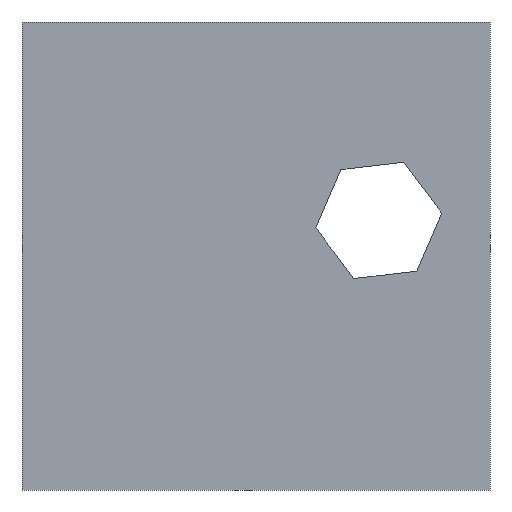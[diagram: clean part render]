
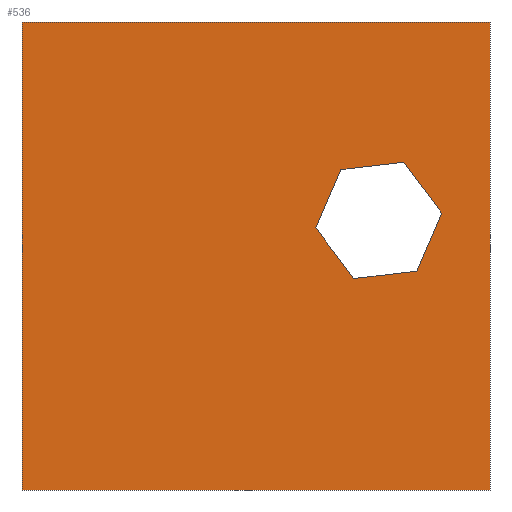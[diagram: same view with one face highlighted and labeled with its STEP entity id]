
A CAD part, front view. The second image highlights one B-rep face of the part: STEP entity #536.
In plain terms, the highlighted planar face has unit normal (0, -1, 0).
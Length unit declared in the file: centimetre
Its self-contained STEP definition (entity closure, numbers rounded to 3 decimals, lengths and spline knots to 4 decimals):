
#8 = CARTESIAN_POINT ( 'NONE',  ( 1000., 0., 1000. ) ) ;
#14 = DIRECTION ( 'NONE',  ( 1., 0., 0. ) ) ;
#15 = EDGE_CURVE ( 'NONE', #30, #588, #505, .T. ) ;
#19 = ORIENTED_EDGE ( 'NONE', *, *, #336, .F. ) ;
#21 = EDGE_CURVE ( 'NONE', #450, #588, #163, .T. ) ;
#30 = VERTEX_POINT ( 'NONE', #471 ) ;
#33 = ORIENTED_EDGE ( 'NONE', *, *, #574, .F. ) ;
#54 = VECTOR ( 'NONE', #263, 100. ) ;
#57 = CARTESIAN_POINT ( 'NONE',  ( 843.1665, 0., 467.5201 ) ) ;
#60 = LINE ( 'NONE', #209, #606 ) ;
#69 = VERTEX_POINT ( 'NONE', #268 ) ;
#75 = DIRECTION ( 'NONE',  ( -0.597, 0., 0.802 ) ) ;
#77 = EDGE_CURVE ( 'NONE', #540, #30, #260, .T. ) ;
#90 = VECTOR ( 'NONE', #526, 100. ) ;
#106 = CARTESIAN_POINT ( 'NONE',  ( 843.1665, 0., 467.5201 ) ) ;
#109 = FACE_OUTER_BOUND ( 'NONE', #410, .T. ) ;
#120 = CARTESIAN_POINT ( 'NONE',  ( 0., 0., 1000. ) ) ;
#138 = LINE ( 'NONE', #283, #235 ) ;
#140 = LINE ( 'NONE', #194, #597 ) ;
#163 = LINE ( 'NONE', #207, #54 ) ;
#174 = VECTOR ( 'NONE', #176, 100. ) ;
#176 = DIRECTION ( 'NONE',  ( -0.993, 0., -0.116 ) ) ;
#191 = VERTEX_POINT ( 'NONE', #533 ) ;
#194 = CARTESIAN_POINT ( 'NONE',  ( 627.8884, 0., 560.2994 ) ) ;
#200 = ORIENTED_EDGE ( 'NONE', *, *, #509, .F. ) ;
#204 = CARTESIAN_POINT ( 'NONE',  ( 1000., 0., 0. ) ) ;
#207 = CARTESIAN_POINT ( 'NONE',  ( 1000., 0., 1000. ) ) ;
#209 = CARTESIAN_POINT ( 'NONE',  ( 708.7444, 0., 451.7643 ) ) ;
#213 = DIRECTION ( 'NONE',  ( 0., 1., 0. ) ) ;
#217 = CARTESIAN_POINT ( 'NONE',  ( 681.4545, 0., 684.5902 ) ) ;
#220 = EDGE_CURVE ( 'NONE', #354, #191, #138, .T. ) ;
#229 = EDGE_CURVE ( 'NONE', #540, #450, #630, .T. ) ;
#235 = VECTOR ( 'NONE', #75, 100. ) ;
#239 = VERTEX_POINT ( 'NONE', #483 ) ;
#256 = LINE ( 'NONE', #57, #555 ) ;
#260 = LINE ( 'NONE', #120, #308 ) ;
#261 = ORIENTED_EDGE ( 'NONE', *, *, #220, .F. ) ;
#263 = DIRECTION ( 'NONE',  ( 0., 0., -1. ) ) ;
#265 = CARTESIAN_POINT ( 'NONE',  ( 0., 0., 1000. ) ) ;
#268 = CARTESIAN_POINT ( 'NONE',  ( 627.8884, 0., 560.2994 ) ) ;
#276 = ORIENTED_EDGE ( 'NONE', *, *, #21, .F. ) ;
#281 = EDGE_LOOP ( 'NONE', ( #261, #200, #631, #19, #33, #660 ) ) ;
#283 = CARTESIAN_POINT ( 'NONE',  ( 896.7326, 0., 591.811 ) ) ;
#304 = PLANE ( 'NONE',  #521 ) ;
#308 = VECTOR ( 'NONE', #515, 100. ) ;
#310 = LINE ( 'NONE', #457, #507 ) ;
#335 = CARTESIAN_POINT ( 'NONE',  ( 0., 0., 1000. ) ) ;
#336 = EDGE_CURVE ( 'NONE', #69, #239, #140, .T. ) ;
#352 = DIRECTION ( 'NONE',  ( 0., 0., 1. ) ) ;
#354 = VERTEX_POINT ( 'NONE', #436 ) ;
#361 = CARTESIAN_POINT ( 'NONE',  ( 0., 0., 1000. ) ) ;
#407 = ORIENTED_EDGE ( 'NONE', *, *, #77, .T. ) ;
#409 = DIRECTION ( 'NONE',  ( 0.993, 0., 0.116 ) ) ;
#410 = EDGE_LOOP ( 'NONE', ( #550, #276, #538, #407 ) ) ;
#429 = VECTOR ( 'NONE', #14, 100. ) ;
#436 = CARTESIAN_POINT ( 'NONE',  ( 896.7326, 0., 591.811 ) ) ;
#450 = VERTEX_POINT ( 'NONE', #8 ) ;
#456 = VERTEX_POINT ( 'NONE', #106 ) ;
#457 = CARTESIAN_POINT ( 'NONE',  ( 681.4545, 0., 684.5902 ) ) ;
#471 = CARTESIAN_POINT ( 'NONE',  ( 0., 0., 0. ) ) ;
#483 = CARTESIAN_POINT ( 'NONE',  ( 708.7444, 0., 451.7643 ) ) ;
#496 = LINE ( 'NONE', #594, #174 ) ;
#505 = LINE ( 'NONE', #614, #429 ) ;
#507 = VECTOR ( 'NONE', #570, 100. ) ;
#509 = EDGE_CURVE ( 'NONE', #456, #354, #256, .T. ) ;
#513 = FACE_BOUND ( 'NONE', #281, .T. ) ;
#515 = DIRECTION ( 'NONE',  ( 0., 0., -1. ) ) ;
#521 = AXIS2_PLACEMENT_3D ( 'NONE', #265, #213, #352 ) ;
#526 = DIRECTION ( 'NONE',  ( 1., 0., 0. ) ) ;
#533 = CARTESIAN_POINT ( 'NONE',  ( 815.8766, 0., 700.3461 ) ) ;
#536 = ADVANCED_FACE ( 'NONE', ( #513, #109 ), #304, .F. ) ;
#538 = ORIENTED_EDGE ( 'NONE', *, *, #229, .F. ) ;
#540 = VERTEX_POINT ( 'NONE', #361 ) ;
#547 = EDGE_CURVE ( 'NONE', #239, #456, #60, .T. ) ;
#550 = ORIENTED_EDGE ( 'NONE', *, *, #15, .T. ) ;
#555 = VECTOR ( 'NONE', #608, 100. ) ;
#570 = DIRECTION ( 'NONE',  ( -0.396, 0., -0.918 ) ) ;
#574 = EDGE_CURVE ( 'NONE', #576, #69, #310, .T. ) ;
#576 = VERTEX_POINT ( 'NONE', #217 ) ;
#588 = VERTEX_POINT ( 'NONE', #204 ) ;
#591 = DIRECTION ( 'NONE',  ( 0.597, 0., -0.802 ) ) ;
#594 = CARTESIAN_POINT ( 'NONE',  ( 815.8766, 0., 700.3461 ) ) ;
#597 = VECTOR ( 'NONE', #591, 100. ) ;
#604 = EDGE_CURVE ( 'NONE', #191, #576, #496, .T. ) ;
#606 = VECTOR ( 'NONE', #409, 100. ) ;
#608 = DIRECTION ( 'NONE',  ( 0.396, 0., 0.918 ) ) ;
#614 = CARTESIAN_POINT ( 'NONE',  ( 0., 0., 0. ) ) ;
#630 = LINE ( 'NONE', #335, #90 ) ;
#631 = ORIENTED_EDGE ( 'NONE', *, *, #547, .F. ) ;
#660 = ORIENTED_EDGE ( 'NONE', *, *, #604, .F. ) ;
